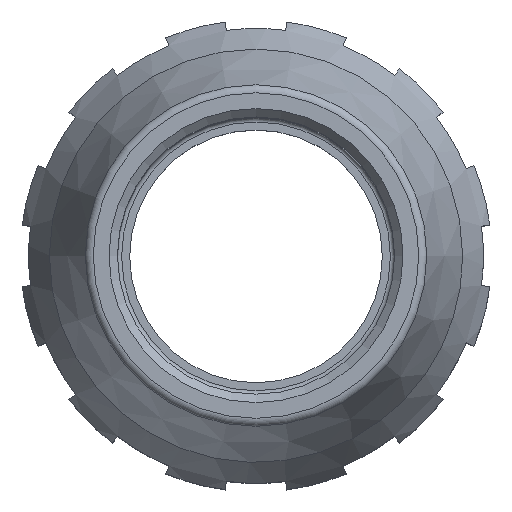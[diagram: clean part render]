
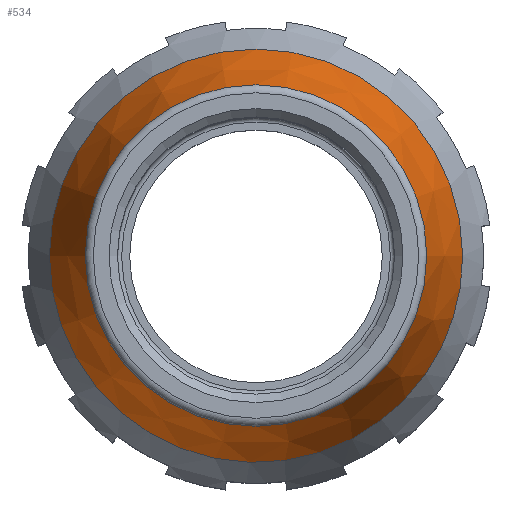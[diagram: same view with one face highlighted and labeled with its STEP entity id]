
A CAD part, top view. The second image highlights one B-rep face of the part: STEP entity #534.
In plain terms, the highlighted conical face has half-angle 18.168 degrees and reference radius 20.194 mm.
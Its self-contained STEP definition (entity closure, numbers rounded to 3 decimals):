
#534 = ADVANCED_FACE( '', ( #1116, #1117 ), #1118, .T. );
#1116 = FACE_OUTER_BOUND( '', #2473, .T. );
#1117 = FACE_BOUND( '', #2474, .T. );
#1118 = CONICAL_SURFACE( '', #2475, 20.194, 0.317 );
#2473 = EDGE_LOOP( '', ( #4040 ) );
#2474 = EDGE_LOOP( '', ( #4041 ) );
#2475 = AXIS2_PLACEMENT_3D( '', #4042, #4043, #4044 );
#4040 = ORIENTED_EDGE( '', *, *, #4936, .T. );
#4041 = ORIENTED_EDGE( '', *, *, #4469, .T. );
#4042 = CARTESIAN_POINT( '', ( 0., 0., -0.452 ) );
#4043 = DIRECTION( '', ( 0., 0., -1. ) );
#4044 = DIRECTION( '', ( -1., 0., 0. ) );
#4469 = EDGE_CURVE( '', #5138, #5138, #5139, .T. );
#4936 = EDGE_CURVE( '', #5838, #5838, #5839, .T. );
#5138 = VERTEX_POINT( '', #6160 );
#5139 = CIRCLE( '', #6161, 20.272 );
#5838 = VERTEX_POINT( '', #7784 );
#5839 = CIRCLE( '', #7785, 24.535 );
#6160 = CARTESIAN_POINT( '', ( -20.272, 0., -0.688 ) );
#6161 = AXIS2_PLACEMENT_3D( '', #7994, #7995, #7996 );
#7784 = CARTESIAN_POINT( '', ( 24.535, 0., -13.679 ) );
#7785 = AXIS2_PLACEMENT_3D( '', #8608, #8609, #8610 );
#7994 = CARTESIAN_POINT( '', ( 0., 0., -0.688 ) );
#7995 = DIRECTION( '', ( 0., 0., -1. ) );
#7996 = DIRECTION( '', ( -1., 0., 0. ) );
#8608 = CARTESIAN_POINT( '', ( 0., 0., -13.679 ) );
#8609 = DIRECTION( '', ( 0., 0., 1. ) );
#8610 = DIRECTION( '', ( 1., 0., 0. ) );
